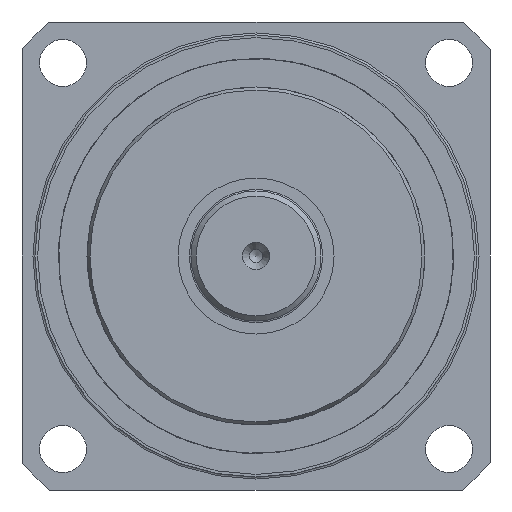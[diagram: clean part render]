
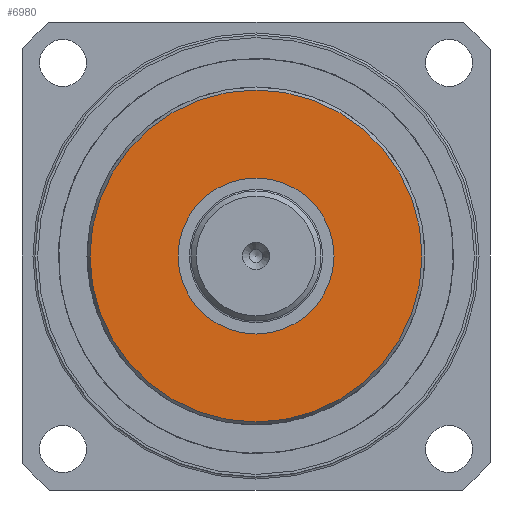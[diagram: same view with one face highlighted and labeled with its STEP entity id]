
A CAD part, left-side view. The second image highlights one B-rep face of the part: STEP entity #6980.
In plain terms, the highlighted planar face has unit normal (-1, 0, 0).
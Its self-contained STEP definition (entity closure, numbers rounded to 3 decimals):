
#639=FACE_BOUND('',#1913,.T.);
#1334=PLANE('',#7923);
#1499=FACE_OUTER_BOUND('',#1912,.T.);
#1912=EDGE_LOOP('',(#5184));
#1913=EDGE_LOOP('',(#5185,#5186));
#2486=CIRCLE('',#7919,31.923);
#2489=CIRCLE('',#7924,15.);
#2490=CIRCLE('',#7925,15.);
#3197=VERTEX_POINT('',#11794);
#3200=VERTEX_POINT('',#11804);
#3201=VERTEX_POINT('',#11805);
#4033=EDGE_CURVE('',#3197,#3197,#2486,.T.);
#4037=EDGE_CURVE('',#3200,#3201,#2489,.T.);
#4038=EDGE_CURVE('',#3201,#3200,#2490,.T.);
#5184=ORIENTED_EDGE('',*,*,#4033,.F.);
#5185=ORIENTED_EDGE('',*,*,#4037,.T.);
#5186=ORIENTED_EDGE('',*,*,#4038,.T.);
#6980=ADVANCED_FACE('',(#1499,#639),#1334,.T.);
#7919=AXIS2_PLACEMENT_3D('',#11796,#9266,#9267);
#7923=AXIS2_PLACEMENT_3D('',#11803,#9275,#9276);
#7924=AXIS2_PLACEMENT_3D('',#11806,#9277,#9278);
#7925=AXIS2_PLACEMENT_3D('',#11807,#9279,#9280);
#9266=DIRECTION('center_axis',(1.,0.,0.));
#9267=DIRECTION('ref_axis',(0.,-1.,0.));
#9275=DIRECTION('center_axis',(-1.,0.,0.));
#9276=DIRECTION('ref_axis',(0.,0.,1.));
#9277=DIRECTION('center_axis',(1.,0.,0.));
#9278=DIRECTION('ref_axis',(0.,0.,-1.));
#9279=DIRECTION('center_axis',(1.,0.,0.));
#9280=DIRECTION('ref_axis',(0.,0.,-1.));
#11794=CARTESIAN_POINT('',(0.,31.923,0.));
#11796=CARTESIAN_POINT('Origin',(0.,0.,0.));
#11803=CARTESIAN_POINT('Origin',(0.,32.5,0.));
#11804=CARTESIAN_POINT('',(0.,15.,0.));
#11805=CARTESIAN_POINT('',(0.,-15.,0.));
#11806=CARTESIAN_POINT('Origin',(0.,0.,0.));
#11807=CARTESIAN_POINT('Origin',(0.,0.,0.));
